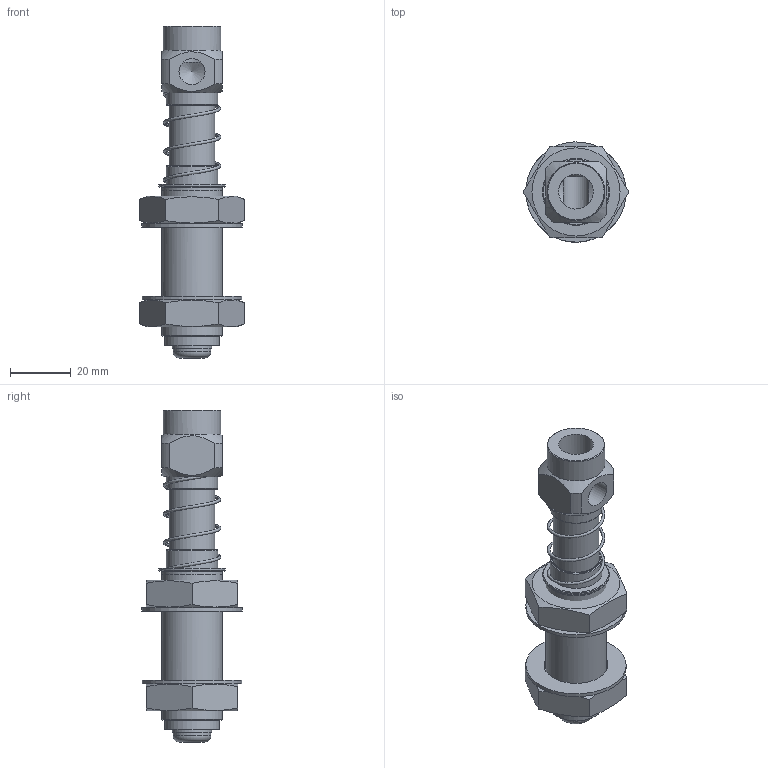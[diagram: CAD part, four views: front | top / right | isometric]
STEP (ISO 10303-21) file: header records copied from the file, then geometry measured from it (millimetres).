
FILE_DESCRIPTION(('STEP AP214'),'1');
FILE_NAME('CA.GGDG.20141820.stp','2018-08-27T09:58:35',(' '),(' '),'Spatial InterOp 3D',' ',' ');
FILE_SCHEMA(('AUTOMOTIVE_DESIGN { 1 0 10303 214 1 1 1 1 }'));
Length unit declared in the file: millimetre
Products named in the file (10): CA.GGDG.20141820; V.TBCE8X12.BUTT; R.8.SCH; R.8X18X3; R.20.SCH; 05.02.001.06; GGD.20.14.18.1; M.19X35; GGD.20.20.1; GGDG.20.2
Assembly tree (11 placements, depth 2):
  CA.GGDG.20141820
    V.TBCE8X12.BUTT
    R.8.SCH
    R.8X18X3
    R.20.SCH  x2
    05.02.001.06  x2
    GGD.20.14.18.1
    M.19X35
    GGD.20.20.1
    GGDG.20.2
Bounding box: 34.64 x 32.97 x 109.2 mm (x, y, z)
Volume: 35133.8 mm3; surface area: 24982.7 mm2
Topology: 11 solids, 11 shells, 109 faces, 225 edges, 145 vertices
Faces by surface type: plane 52, cylinder 32, cone 23, torus 1, bspline 1
Full cylindrical faces by diameter (mm): 6.8 x1, 8 x1, 8.3 x2, 8.5 x1, 8.566 x3, 9.7 x1, 11.445 x1, 12.5 x1, 13 x1, 15 x1, 15.2 x1, 17 x2, 18 x1, 18.5 x2, 19 x1, 20 x2, 21 x2, 22 x1, 33 x2
Entity records: 4773 total; most frequent: CARTESIAN_POINT 2038, DIRECTION 388, ORIENTED_EDGE 274, AXIS2_PLACEMENT_3D 178, EDGE_LOOP 159, EDGE_CURVE 137, FACE_OUTER_BOUND 119, VERTEX_POINT 113
